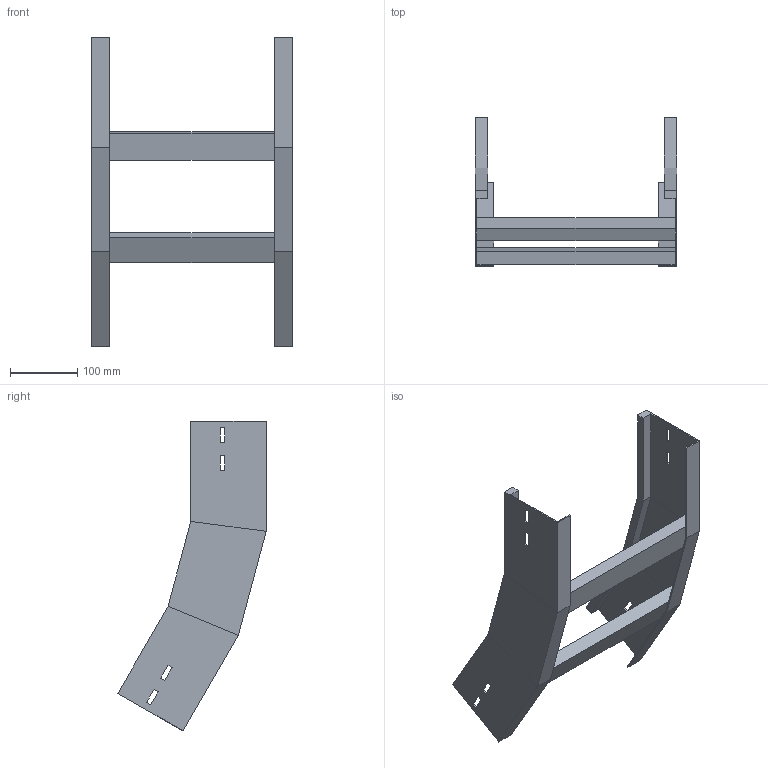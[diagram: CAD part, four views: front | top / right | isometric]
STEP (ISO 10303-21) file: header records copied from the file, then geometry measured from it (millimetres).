
FILE_DESCRIPTION (( 'STEP AP214' ), '1' );
FILE_NAME ('B2X32B5J300XX.step', '2025-03-20T10:00:54', ( '' ), ( '' ), 'SwSTEP 2.0', 'SolidWorks 2023', '' );
FILE_SCHEMA (( 'AUTOMOTIVE_DESIGN' ));
Length unit declared in the file: millimetre
Products named in the file (3): LONGH.SALITA_30°_H112.5_R500; B2X32B5J300XX; TRAVERSINO_300
Assembly tree (4 placements, depth 2):
  B2X32B5J300XX
    LONGH.SALITA_30°_H112.5_R500  x2
    TRAVERSINO_300  x2
Bounding box: 300 x 221.37 x 462.57 mm (x, y, z)
Volume: 899890.7 mm3; surface area: 362837.4 mm2
Topology: 4 solids, 4 shells, 96 faces, 232 edges, 144 vertices
Faces by surface type: plane 96
Entity records: 1472 total; most frequent: CARTESIAN_POINT 243, ORIENTED_EDGE 232, DIRECTION 226, EDGE_CURVE 116, LINE 116, VECTOR 116, VERTEX_POINT 72, EDGE_LOOP 56
